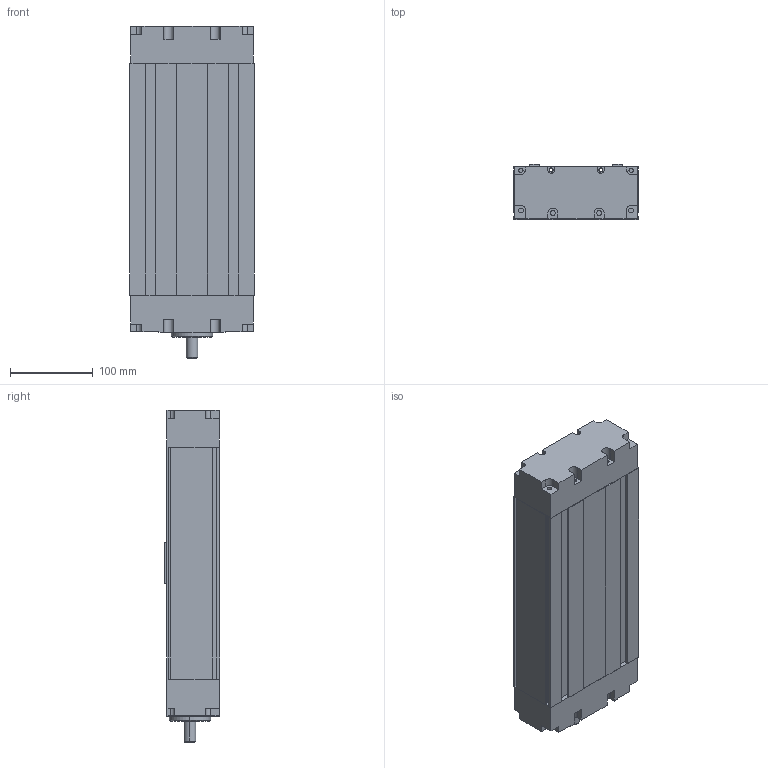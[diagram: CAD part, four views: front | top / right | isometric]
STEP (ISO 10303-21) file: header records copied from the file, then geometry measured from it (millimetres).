
FILE_DESCRIPTION (( 'STEP AP203' ), '1' );
FILE_NAME ('MSY150B-100-LL2020-P7.STEP', '2013-11-02T03:48:52', ( '微软用户' ), ( '微软中国' ), 'SwSTEP 2.0', 'SolidWorks 2010', '' );
FILE_SCHEMA (( 'CONFIG_CONTROL_DESIGN' ));
Length unit declared in the file: millimetre
Products named in the file (1): MSY150B-100-LL2020-P7
Bounding box: 150 x 67 x 401 mm (x, y, z)
Volume: 3052430.4 mm3; surface area: 353159.4 mm2
Topology: 1 solids, 1 shells, 309 faces, 837 edges, 538 vertices
Faces by surface type: plane 236, cylinder 61, cone 12
Entity records: 9622 total; most frequent: CARTESIAN_POINT 1677, ORIENTED_EDGE 1658, DIRECTION 1575, EDGE_CURVE 829, VECTOR 703, LINE 703, VERTEX_POINT 538, AXIS2_PLACEMENT_3D 436
